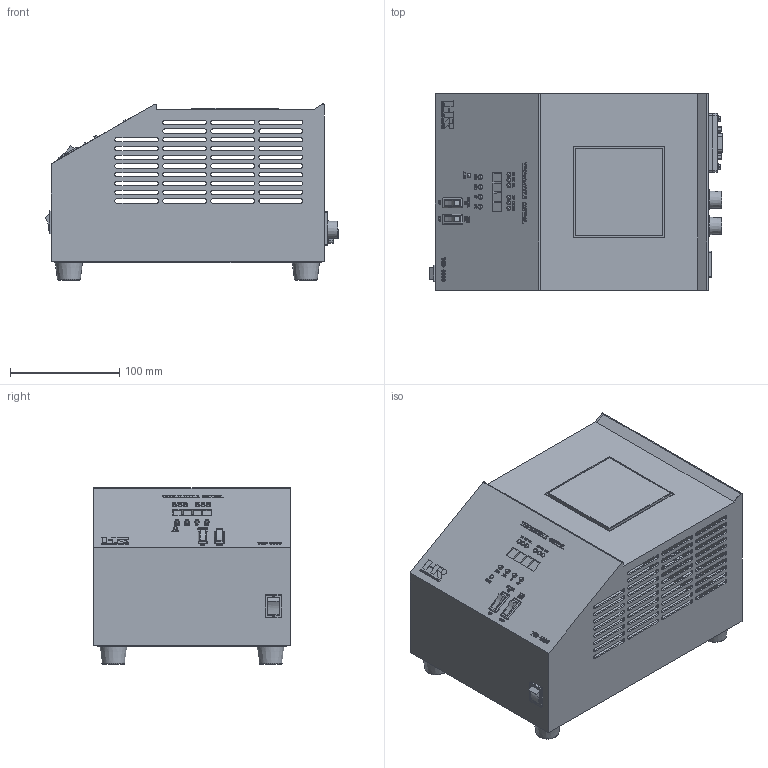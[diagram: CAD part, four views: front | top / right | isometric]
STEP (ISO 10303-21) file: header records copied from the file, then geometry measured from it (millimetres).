
FILE_DESCRIPTION(('STEP AP214'),'1');
FILE_NAME('TOB-1000.stp','2026-03-16T23:48:51',(' '),(' '),'Spatial InterOp 3D',' ',' ');
FILE_SCHEMA(('AUTOMOTIVE_DESIGN { 1 0 10303 214 1 1 1 1 }'));
Length unit declared in the file: metre
Products named in the file (22): TOB-1000; 筐体; 文字(操作); 数字; ボタン; スイッチ; LED(黄色); LED(緑); LED(赤); 底板; 冷却板; 文字(背面); ヒューズ; ヒューズ2; スイッチ(電源); ACインレット(3極); ゴム脚; M3ネジ(ゴム足); RC232C; カバー; ネジ; 表示ラベル
Assembly tree (22 placements, depth 2):
  TOB-1000
    筐体
    文字(操作)
    数字
    ボタン
    スイッチ
    LED(黄色)
    LED(緑)
    LED(赤)
    底板
    冷却板
    文字(背面)
    ヒューズ
    ヒューズ2
    スイッチ(電源)
    ACインレット(3極)
    ゴム脚
    M3ネジ(ゴム足)
    RC232C
    カバー  x2
    ネジ
    表示ラベル
Bounding box: 268.75 x 180 x 161.39 mm (x, y, z)
Volume: 364495.6 mm3; surface area: 500732.9 mm2
Topology: 177 solids, 177 shells, 3129 faces, 8127 edges, 5334 vertices
Faces by surface type: plane 2239, cylinder 502, bspline 335, cone 32, torus 12, sphere 7, extrusion 2
Full cylindrical faces by diameter (mm): 0.8 x9, 0.9 x9, 2 x4, 2.1 x2, 3 x13, 3.2 x4, 4 x7, 4.5 x4, 5.5 x4, 6 x3, 6.5 x4, 8 x4, 9 x4, 11.1 x2, 11.6 x2, 12.7 x2, 12.9 x2, 18.5 x2
Entity records: 122202 total; most frequent: CARTESIAN_POINT 22155, ORIENTED_EDGE 15554, DIRECTION 13601, EDGE_CURVE 7777, VECTOR 5909, LINE 5907, VERTEX_POINT 5230, AXIS2_PLACEMENT_3D 3846
